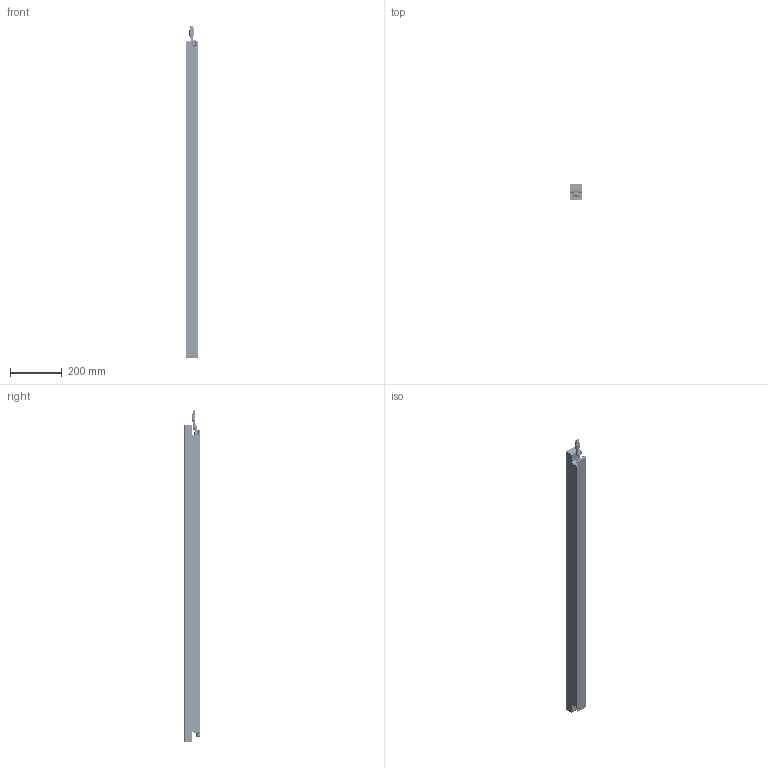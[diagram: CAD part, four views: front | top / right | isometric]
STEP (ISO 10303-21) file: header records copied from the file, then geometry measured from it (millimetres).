
FILE_DESCRIPTION (( 'STEP AP214' ), '1' );
FILE_NAME ('L60 4ft Regular Lens model.STEP', '2023-08-14T21:19:11', ( '' ), ( '' ), 'SwSTEP 2.0', 'SolidWorks 2022', '' );
FILE_SCHEMA (( 'AUTOMOTIVE_DESIGN' ));
Length unit declared in the file: millimetre
Products named in the file (207): CAP1206_CAP-000543-00-1; RES1206_RES-001312-00-1; SOT1210_FET_TRA-000058-00-11; GSK-000115-00; RES0402_RES-000975-00-1; RES0603_RES-001331-00-3; SCW-000562-00_92000A106; CONN-2_WAGO_2086-3122_CON-000235-00-1; SMB_DIO-000309-00-1; RES0603_RES-001317-00-3; SCW-000509-00_98070A892; RES1206_RES-001323-00-1; CAP0603_CAP-000017-00-1; RES0603_RES-001322-00-3; CAP1206_CAP-000535-00-1; RES1206_RES-000209-00-1; SOIC_8_XIC-000190-00-1; RES0603_RES-000061-00-3; RES1206_RES-001313-00-1; CAP0402_CAP-000309-00-11; CAP0603_CAP-000502-00-11; CAP0603_CAP-000381-00-1; PTS810_SWH-000002-00-1; CMC_TDK_B82732F_MAG-000093-00-1; ACB-000261-00; BKT-000457-XX; TH-KEYSTONE-4887_ESP-000001-00-1; CAP0805_CAP-000222-00-1; RES0603_RES-000809-00-3; SOD-523_DIO-000128-00-25; FOM-000028-00; CAP0805_CAP-000343-00-14; SOIC_8_XIC-000174-00-1; CAP1808_CAP-000532-00-1; RES0805_RES-001335-00-1; SRN6028_MAG-000017-00-1; FCAP_P=15_W=8_H=14_L=18_CAP-000213-00-1; CVR-000789-XX_L65; DPAK_FET_TRA-000111-00-1; Cable_1^Harness_1-ACB-000256-00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
Assembly tree (441 placements, depth 4):
  L60 4ft Regular Lens model
    BAS-000021-00
    Iris_L60_2FT_RevC  x2
      Iris_L60_2FT_RevC_BOARD
      SOD-523_CMP-04326-2
      CAP0402_CAP-000157-00-6
      FP-87438-0443-P-MFG_CMP-02411-4
      RES0603_RES-000155-00-3
      RES0402_RES-000877-00-3
      LED_DUAL_NICHIA_LUXEON_WHITE_LED-000295-00-1
      PA4341.XXXNLT_MAG-000108-00-1
      RES1206_MAG-000066-00-1
      VQFN48_XIC-000116-00-1
      RES0603_RES-000092-00-12
      LED_DUAL_NICHIA_LUXEON_WHITE_LED-000294-00-1
      SRN6028_MAG-000017-00-1
      RES0402_RES-000957-00-1
      LED0603_DIO-000085-00-11
      CAP0603_CAP-000502-00-11
      RES0805_RES-000022-00-1
      SOT23-5_XIC-000168-00-1
      CAP0805_CAP-000343-00-14
      CAP0805_CAP-000147-00-1
      CAP0603_CAP-000501-00-11
      RES0603_RES-000809-00-12
      RES0603_RES-001304-00-1
      RES0603_RES-001303-00-1
      VFDFN10_EP_XIC-000127-00-1
      RES0603_RES-000154-00-12
      RES0603_RES-000085-00-12
      CAP0805_CAP-000342-00-1
      RES0603_RES-000061-00-12
      RES0603_RES-000054-00-12
      RES0603_RES-000070-00-12
      RES0603_RES-001328-00-12
      SOT323_BJT_TRA-000107-00-1
      SOT23-3_FET_TRA-000109-00-9
      SOT323_FET_TRA-000108-00-1
      CAP0603_CAP-000019-00-11
      RES0402_RES-000876-00-1
      CAP0402_CAP-000338-00-3
      SOT1210_FET_TRA-000058-00-11
      CONN_M50-3130545_HARWIN_CON-000136-00-1
      SOD-523_DIO-000128-00-25
      POWERDI5_DIO-000148-00-5
      CAP0805_CAP-000341-00-14
      CAP0402_CAP-000339-00-3
      CAP0402_CAP-000309-00-11
      CAP0603_CAP-000340-00-11
      PTS810_SWH-000002-00-1
      RES0402_RES-000736-00-1
      RES0402_RES-000742-00-1
      RES0402_RES-000975-00-1
      RES0402_RES-000955-00-1
      RES0402_RES-000732-00-1
      RES0402_RES-000752-00-1
      RES0603_RES-000953-00-12
      RES0603_RES-000961-00-1
      CAP0402_CAP-000327-00-3
      L2520_MAG-000016-00-1
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Bounding box: 50 x 62.99 x 1278.99 mm (x, y, z)
Volume: 1466897.2 mm3; surface area: 1586114 mm2
Topology: 790 solids, 2656 shells, 38910 faces, 108197 edges, 72439 vertices
Faces by surface type: plane 22116, cylinder 9324, bspline 3572, cone 1456, torus 1454, sphere 988
Entity records: 798896 total; most frequent: CARTESIAN_POINT 258146, ORIENTED_EDGE 91413, DIRECTION 83681, EDGE_CURVE 50301, VERTEX_POINT 35284, LINE 30819, VECTOR 30819, AXIS2_PLACEMENT_3D 26431
